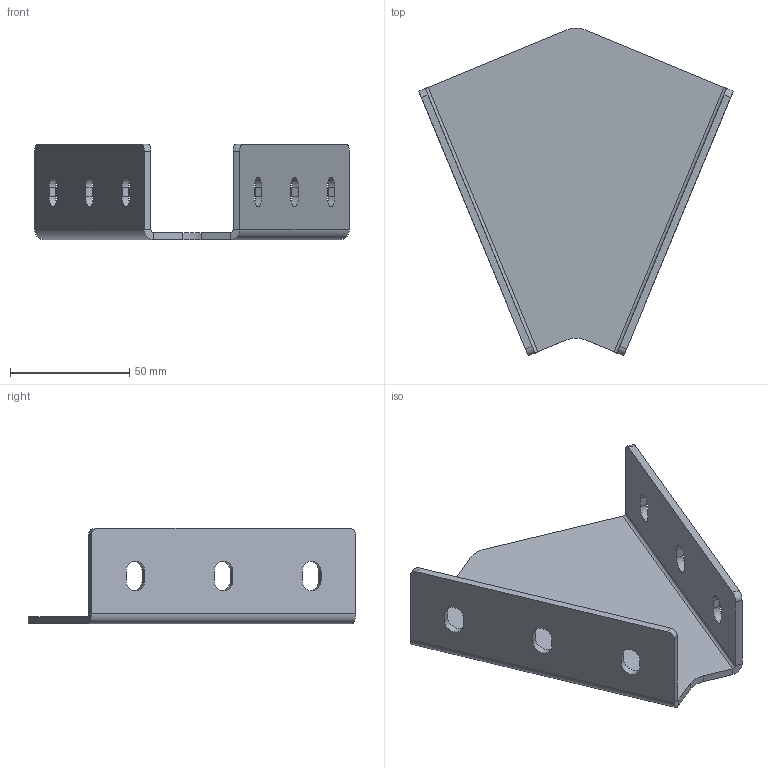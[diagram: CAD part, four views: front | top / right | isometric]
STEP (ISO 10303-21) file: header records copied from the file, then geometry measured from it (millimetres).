
FILE_DESCRIPTION (( 'STEP AP214' ), '1' );
FILE_NAME ('4012045.STEP', '2018-02-23T06:41:16', ( '' ), ( '' ), 'SwSTEP 2.0', 'SolidWorks 2014', '' );
FILE_SCHEMA (( 'AUTOMOTIVE_DESIGN' ));
Length unit declared in the file: millimetre
Products named in the file (2): 4012045
Bounding box: 131.84 x 137.32 x 40 mm (x, y, z)
Volume: 57598.6 mm3; surface area: 40713.3 mm2
Topology: 1 solids, 1 shells, 54 faces, 140 edges, 88 vertices
Faces by surface type: plane 32, cylinder 22
Entity records: 1713 total; most frequent: DIRECTION 296, CARTESIAN_POINT 284, ORIENTED_EDGE 280, EDGE_CURVE 140, AXIS2_PLACEMENT_3D 100, LINE 96, VECTOR 96, VERTEX_POINT 88
